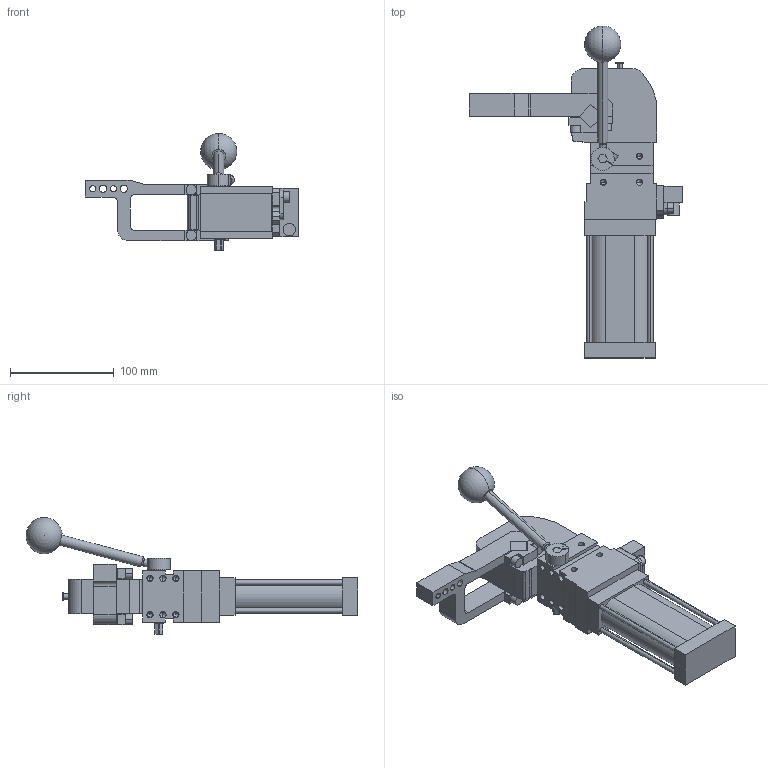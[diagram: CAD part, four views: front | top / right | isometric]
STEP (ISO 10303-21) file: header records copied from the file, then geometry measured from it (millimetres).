
FILE_DESCRIPTION (( 'STEP AP214' ), '1' );
FILE_NAME ('cplm40lav2si1g_108.STEP', '2021-05-25T12:22:05', ( '' ), ( '' ), 'SwSTEP 2.0', 'SolidWorks 2021', '' );
FILE_SCHEMA (( 'AUTOMOTIVE_DESIGN' ));
Length unit declared in the file: millimetre
Products named in the file (6): meccanica_cplm40; comando_manuale_cplm_40; blocchetto_VEP_0_cpl40; cplm40lav2si1g_108; piastra_blocchetto_cpl40; leva_v2s_cpl40
Assembly tree (5 placements, depth 2):
  cplm40lav2si1g_108
    meccanica_cplm40
    blocchetto_VEP_0_cpl40
    piastra_blocchetto_cpl40
    leva_v2s_cpl40
    comando_manuale_cplm_40
Bounding box: 205.5 x 319.99 x 112.66 mm (x, y, z)
Volume: 801488.4 mm3; surface area: 124975 mm2
Topology: 6 solids, 6 shells, 457 faces, 1171 edges, 737 vertices
Faces by surface type: plane 255, cylinder 154, cone 46, sphere 2
Entity records: 15175 total; most frequent: CARTESIAN_POINT 2441, DIRECTION 2414, ORIENTED_EDGE 2248, EDGE_CURVE 1124, AXIS2_PLACEMENT_3D 829, VECTOR 756, LINE 756, VERTEX_POINT 734
